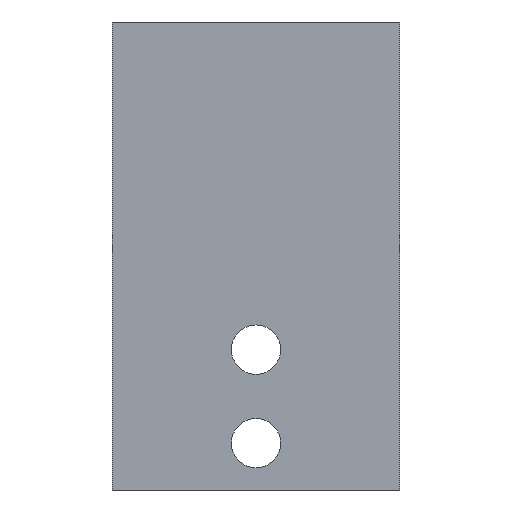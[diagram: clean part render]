
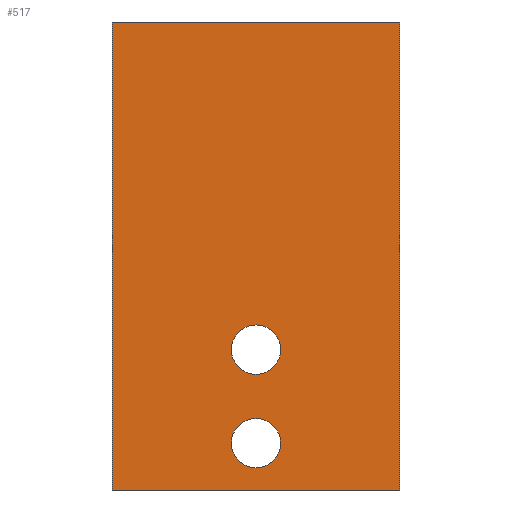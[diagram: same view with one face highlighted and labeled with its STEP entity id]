
A CAD part, front view. The second image highlights one B-rep face of the part: STEP entity #517.
In plain terms, the highlighted planar face has unit normal (0, -1, 0).
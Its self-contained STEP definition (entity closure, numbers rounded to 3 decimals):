
#22 = VERTEX_POINT('',#23);
#23 = CARTESIAN_POINT('',(41.985,0.,0.));
#32 = PLANE('',#33);
#33 = AXIS2_PLACEMENT_3D('',#34,#35,#36);
#34 = CARTESIAN_POINT('',(41.985,0.,0.));
#35 = DIRECTION('',(-1.,0.,0.));
#36 = DIRECTION('',(0.,1.,0.));
#44 = PLANE('',#45);
#45 = AXIS2_PLACEMENT_3D('',#46,#47,#48);
#46 = CARTESIAN_POINT('',(0.,6.375,0.));
#47 = DIRECTION('',(0.,0.,1.));
#48 = DIRECTION('',(1.,0.,-0.));
#56 = EDGE_CURVE('',#22,#57,#59,.T.);
#57 = VERTEX_POINT('',#58);
#58 = CARTESIAN_POINT('',(41.985,0.,136.52));
#59 = SURFACE_CURVE('',#60,(#64,#71),.PCURVE_S1.);
#60 = LINE('',#61,#62);
#61 = CARTESIAN_POINT('',(41.985,0.,0.));
#62 = VECTOR('',#63,1.);
#63 = DIRECTION('',(0.,0.,1.));
#64 = PCURVE('',#32,#65);
#65 = DEFINITIONAL_REPRESENTATION('',(#66),#70);
#66 = LINE('',#67,#68);
#67 = CARTESIAN_POINT('',(0.,0.));
#68 = VECTOR('',#69,1.);
#69 = DIRECTION('',(0.,-1.));
#70 = ( GEOMETRIC_REPRESENTATION_CONTEXT(2) 
PARAMETRIC_REPRESENTATION_CONTEXT() REPRESENTATION_CONTEXT('2D SPACE',''
  ) );
#71 = PCURVE('',#72,#77);
#72 = PLANE('',#73);
#73 = AXIS2_PLACEMENT_3D('',#74,#75,#76);
#74 = CARTESIAN_POINT('',(-41.985,0.,0.));
#75 = DIRECTION('',(0.,1.,0.));
#76 = DIRECTION('',(1.,0.,0.));
#77 = DEFINITIONAL_REPRESENTATION('',(#78),#82);
#78 = LINE('',#79,#80);
#79 = CARTESIAN_POINT('',(83.97,0.));
#80 = VECTOR('',#81,1.);
#81 = DIRECTION('',(0.,-1.));
#82 = ( GEOMETRIC_REPRESENTATION_CONTEXT(2) 
PARAMETRIC_REPRESENTATION_CONTEXT() REPRESENTATION_CONTEXT('2D SPACE',''
  ) );
#100 = PLANE('',#101);
#101 = AXIS2_PLACEMENT_3D('',#102,#103,#104);
#102 = CARTESIAN_POINT('',(0.,6.375,136.52));
#103 = DIRECTION('',(0.,0.,1.));
#104 = DIRECTION('',(1.,0.,-0.));
#283 = VERTEX_POINT('',#284);
#284 = CARTESIAN_POINT('',(-41.985,0.,0.));
#298 = PLANE('',#299);
#299 = AXIS2_PLACEMENT_3D('',#300,#301,#302);
#300 = CARTESIAN_POINT('',(-41.985,14.25,0.));
#301 = DIRECTION('',(1.,0.,-0.));
#302 = DIRECTION('',(0.,-1.,0.));
#310 = EDGE_CURVE('',#283,#22,#311,.T.);
#311 = SURFACE_CURVE('',#312,(#316,#323),.PCURVE_S1.);
#312 = LINE('',#313,#314);
#313 = CARTESIAN_POINT('',(-41.985,0.,0.));
#314 = VECTOR('',#315,1.);
#315 = DIRECTION('',(1.,0.,0.));
#316 = PCURVE('',#44,#317);
#317 = DEFINITIONAL_REPRESENTATION('',(#318),#322);
#318 = LINE('',#319,#320);
#319 = CARTESIAN_POINT('',(-41.985,-6.375));
#320 = VECTOR('',#321,1.);
#321 = DIRECTION('',(1.,0.));
#322 = ( GEOMETRIC_REPRESENTATION_CONTEXT(2) 
PARAMETRIC_REPRESENTATION_CONTEXT() REPRESENTATION_CONTEXT('2D SPACE',''
  ) );
#323 = PCURVE('',#72,#324);
#324 = DEFINITIONAL_REPRESENTATION('',(#325),#329);
#325 = LINE('',#326,#327);
#326 = CARTESIAN_POINT('',(0.,0.));
#327 = VECTOR('',#328,1.);
#328 = DIRECTION('',(1.,0.));
#329 = ( GEOMETRIC_REPRESENTATION_CONTEXT(2) 
PARAMETRIC_REPRESENTATION_CONTEXT() REPRESENTATION_CONTEXT('2D SPACE',''
  ) );
#517 = ADVANCED_FACE('',(#518,#566,#597),#72,.F.);
#518 = FACE_BOUND('',#519,.F.);
#519 = EDGE_LOOP('',(#520,#543,#564,#565));
#520 = ORIENTED_EDGE('',*,*,#521,.T.);
#521 = EDGE_CURVE('',#283,#522,#524,.T.);
#522 = VERTEX_POINT('',#523);
#523 = CARTESIAN_POINT('',(-41.985,0.,136.52));
#524 = SURFACE_CURVE('',#525,(#529,#536),.PCURVE_S1.);
#525 = LINE('',#526,#527);
#526 = CARTESIAN_POINT('',(-41.985,0.,0.));
#527 = VECTOR('',#528,1.);
#528 = DIRECTION('',(0.,0.,1.));
#529 = PCURVE('',#72,#530);
#530 = DEFINITIONAL_REPRESENTATION('',(#531),#535);
#531 = LINE('',#532,#533);
#532 = CARTESIAN_POINT('',(0.,0.));
#533 = VECTOR('',#534,1.);
#534 = DIRECTION('',(0.,-1.));
#535 = ( GEOMETRIC_REPRESENTATION_CONTEXT(2) 
PARAMETRIC_REPRESENTATION_CONTEXT() REPRESENTATION_CONTEXT('2D SPACE',''
  ) );
#536 = PCURVE('',#298,#537);
#537 = DEFINITIONAL_REPRESENTATION('',(#538),#542);
#538 = LINE('',#539,#540);
#539 = CARTESIAN_POINT('',(14.25,0.));
#540 = VECTOR('',#541,1.);
#541 = DIRECTION('',(0.,-1.));
#542 = ( GEOMETRIC_REPRESENTATION_CONTEXT(2) 
PARAMETRIC_REPRESENTATION_CONTEXT() REPRESENTATION_CONTEXT('2D SPACE',''
  ) );
#543 = ORIENTED_EDGE('',*,*,#544,.T.);
#544 = EDGE_CURVE('',#522,#57,#545,.T.);
#545 = SURFACE_CURVE('',#546,(#550,#557),.PCURVE_S1.);
#546 = LINE('',#547,#548);
#547 = CARTESIAN_POINT('',(-41.985,0.,136.52));
#548 = VECTOR('',#549,1.);
#549 = DIRECTION('',(1.,0.,0.));
#550 = PCURVE('',#72,#551);
#551 = DEFINITIONAL_REPRESENTATION('',(#552),#556);
#552 = LINE('',#553,#554);
#553 = CARTESIAN_POINT('',(0.,-136.52));
#554 = VECTOR('',#555,1.);
#555 = DIRECTION('',(1.,0.));
#556 = ( GEOMETRIC_REPRESENTATION_CONTEXT(2) 
PARAMETRIC_REPRESENTATION_CONTEXT() REPRESENTATION_CONTEXT('2D SPACE',''
  ) );
#557 = PCURVE('',#100,#558);
#558 = DEFINITIONAL_REPRESENTATION('',(#559),#563);
#559 = LINE('',#560,#561);
#560 = CARTESIAN_POINT('',(-41.985,-6.375));
#561 = VECTOR('',#562,1.);
#562 = DIRECTION('',(1.,0.));
#563 = ( GEOMETRIC_REPRESENTATION_CONTEXT(2) 
PARAMETRIC_REPRESENTATION_CONTEXT() REPRESENTATION_CONTEXT('2D SPACE',''
  ) );
#564 = ORIENTED_EDGE('',*,*,#56,.F.);
#565 = ORIENTED_EDGE('',*,*,#310,.F.);
#566 = FACE_BOUND('',#567,.F.);
#567 = EDGE_LOOP('',(#568));
#568 = ORIENTED_EDGE('',*,*,#569,.F.);
#569 = EDGE_CURVE('',#570,#570,#572,.T.);
#570 = VERTEX_POINT('',#571);
#571 = CARTESIAN_POINT('',(-7.2,0.,40.956));
#572 = SURFACE_CURVE('',#573,(#578,#585),.PCURVE_S1.);
#573 = CIRCLE('',#574,7.2);
#574 = AXIS2_PLACEMENT_3D('',#575,#576,#577);
#575 = CARTESIAN_POINT('',(0.,0.,40.956));
#576 = DIRECTION('',(0.,1.,-0.));
#577 = DIRECTION('',(-1.,0.,0.));
#578 = PCURVE('',#72,#579);
#579 = DEFINITIONAL_REPRESENTATION('',(#580),#584);
#580 = CIRCLE('',#581,7.2);
#581 = AXIS2_PLACEMENT_2D('',#582,#583);
#582 = CARTESIAN_POINT('',(41.985,-40.956));
#583 = DIRECTION('',(-1.,0.));
#584 = ( GEOMETRIC_REPRESENTATION_CONTEXT(2) 
PARAMETRIC_REPRESENTATION_CONTEXT() REPRESENTATION_CONTEXT('2D SPACE',''
  ) );
#585 = PCURVE('',#586,#591);
#586 = CYLINDRICAL_SURFACE('',#587,7.2);
#587 = AXIS2_PLACEMENT_3D('',#588,#589,#590);
#588 = CARTESIAN_POINT('',(0.,0.,40.956));
#589 = DIRECTION('',(0.,1.,0.));
#590 = DIRECTION('',(-1.,0.,0.));
#591 = DEFINITIONAL_REPRESENTATION('',(#592),#596);
#592 = LINE('',#593,#594);
#593 = CARTESIAN_POINT('',(0.,0.));
#594 = VECTOR('',#595,1.);
#595 = DIRECTION('',(1.,0.));
#596 = ( GEOMETRIC_REPRESENTATION_CONTEXT(2) 
PARAMETRIC_REPRESENTATION_CONTEXT() REPRESENTATION_CONTEXT('2D SPACE',''
  ) );
#597 = FACE_BOUND('',#598,.F.);
#598 = EDGE_LOOP('',(#599));
#599 = ORIENTED_EDGE('',*,*,#600,.F.);
#600 = EDGE_CURVE('',#601,#601,#603,.T.);
#601 = VERTEX_POINT('',#602);
#602 = CARTESIAN_POINT('',(-7.2,0.,13.652));
#603 = SURFACE_CURVE('',#604,(#609,#616),.PCURVE_S1.);
#604 = CIRCLE('',#605,7.2);
#605 = AXIS2_PLACEMENT_3D('',#606,#607,#608);
#606 = CARTESIAN_POINT('',(0.,0.,13.652));
#607 = DIRECTION('',(0.,1.,-0.));
#608 = DIRECTION('',(-1.,0.,0.));
#609 = PCURVE('',#72,#610);
#610 = DEFINITIONAL_REPRESENTATION('',(#611),#615);
#611 = CIRCLE('',#612,7.2);
#612 = AXIS2_PLACEMENT_2D('',#613,#614);
#613 = CARTESIAN_POINT('',(41.985,-13.652));
#614 = DIRECTION('',(-1.,0.));
#615 = ( GEOMETRIC_REPRESENTATION_CONTEXT(2) 
PARAMETRIC_REPRESENTATION_CONTEXT() REPRESENTATION_CONTEXT('2D SPACE',''
  ) );
#616 = PCURVE('',#617,#622);
#617 = CYLINDRICAL_SURFACE('',#618,7.2);
#618 = AXIS2_PLACEMENT_3D('',#619,#620,#621);
#619 = CARTESIAN_POINT('',(0.,0.,13.652));
#620 = DIRECTION('',(0.,1.,0.));
#621 = DIRECTION('',(-1.,0.,0.));
#622 = DEFINITIONAL_REPRESENTATION('',(#623),#627);
#623 = LINE('',#624,#625);
#624 = CARTESIAN_POINT('',(0.,0.));
#625 = VECTOR('',#626,1.);
#626 = DIRECTION('',(1.,0.));
#627 = ( GEOMETRIC_REPRESENTATION_CONTEXT(2) 
PARAMETRIC_REPRESENTATION_CONTEXT() REPRESENTATION_CONTEXT('2D SPACE',''
  ) );
